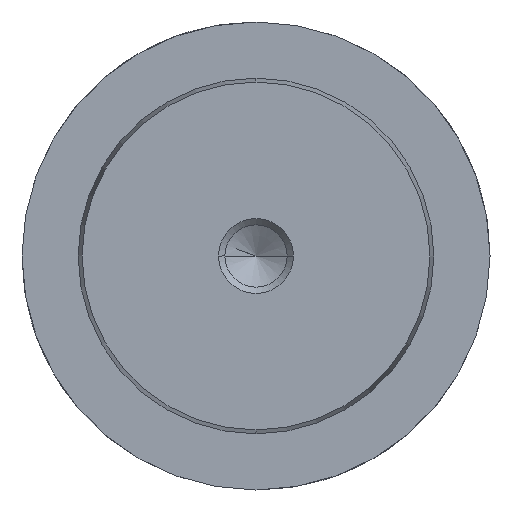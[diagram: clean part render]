
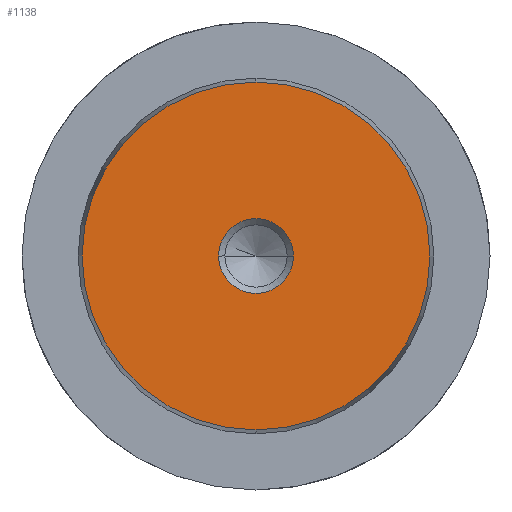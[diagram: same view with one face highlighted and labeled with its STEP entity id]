
A CAD part, left-side view. The second image highlights one B-rep face of the part: STEP entity #1138.
In plain terms, the highlighted planar face has unit normal (-1, 0, 0).
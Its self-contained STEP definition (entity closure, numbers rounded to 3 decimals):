
#1052=CARTESIAN_POINT('Vertex',(0.,0.,-18.578)) ;
#1055=CARTESIAN_POINT('Axis2P3D Location',(0.,0.,0.)) ;
#1059=CARTESIAN_POINT('Vertex',(0.,18.578,0.)) ;
#1062=CARTESIAN_POINT('Axis2P3D Location',(0.,0.,0.)) ;
#1066=CARTESIAN_POINT('Vertex',(0.,0.,18.578)) ;
#1088=CARTESIAN_POINT('Axis2P3D Location',(0.,0.,0.)) ;
#1092=CARTESIAN_POINT('Vertex',(0.,-18.578,0.)) ;
#1095=CARTESIAN_POINT('Axis2P3D Location',(0.,0.,0.)) ;
#1109=CARTESIAN_POINT('Axis2P3D Location',(0.,0.,0.)) ;
#1120=CARTESIAN_POINT('Axis2P3D Location',(0.,0.,0.)) ;
#1124=CARTESIAN_POINT('Vertex',(0.,4.,0.)) ;
#1126=CARTESIAN_POINT('Vertex',(0.,-4.,0.)) ;
#1129=CARTESIAN_POINT('Axis2P3D Location',(0.,0.,0.)) ;
#1056=DIRECTION('Axis2P3D Direction',(1.,-0.,0.)) ;
#1063=DIRECTION('Axis2P3D Direction',(1.,-0.,0.)) ;
#1089=DIRECTION('Axis2P3D Direction',(1.,0.,-0.)) ;
#1096=DIRECTION('Axis2P3D Direction',(1.,0.,-0.)) ;
#1110=DIRECTION('Axis2P3D Direction',(1.,0.,-0.)) ;
#1111=DIRECTION('Axis2P3D XDirection',(-0.,0.,-1.)) ;
#1121=DIRECTION('Axis2P3D Direction',(1.,0.,-0.)) ;
#1130=DIRECTION('Axis2P3D Direction',(1.,0.,-0.)) ;
#1057=AXIS2_PLACEMENT_3D('Circle Axis2P3D',#1055,#1056,$) ;
#1064=AXIS2_PLACEMENT_3D('Circle Axis2P3D',#1062,#1063,$) ;
#1090=AXIS2_PLACEMENT_3D('Circle Axis2P3D',#1088,#1089,$) ;
#1097=AXIS2_PLACEMENT_3D('Circle Axis2P3D',#1095,#1096,$) ;
#1112=AXIS2_PLACEMENT_3D('Plane Axis2P3D',#1109,#1110,#1111) ;
#1122=AXIS2_PLACEMENT_3D('Circle Axis2P3D',#1120,#1121,$) ;
#1131=AXIS2_PLACEMENT_3D('Circle Axis2P3D',#1129,#1130,$) ;
#1115=ORIENTED_EDGE('',*,*,#1061,.F.) ;
#1116=ORIENTED_EDGE('',*,*,#1099,.F.) ;
#1117=ORIENTED_EDGE('',*,*,#1094,.F.) ;
#1118=ORIENTED_EDGE('',*,*,#1068,.F.) ;
#1135=ORIENTED_EDGE('',*,*,#1128,.T.) ;
#1136=ORIENTED_EDGE('',*,*,#1133,.T.) ;
#1137=FACE_BOUND('',#1134,.T.) ;
#1138=ADVANCED_FACE('719-38x315',(#1119,#1137),#1113,.F.) ;
#1058=CIRCLE('generated circle',#1057,18.578) ;
#1065=CIRCLE('generated circle',#1064,18.578) ;
#1091=CIRCLE('generated circle',#1090,18.578) ;
#1098=CIRCLE('generated circle',#1097,18.578) ;
#1123=CIRCLE('generated circle',#1122,4.) ;
#1132=CIRCLE('generated circle',#1131,4.) ;
#1061=EDGE_CURVE('',#1053,#1060,#1058,.T.) ;
#1068=EDGE_CURVE('',#1060,#1067,#1065,.T.) ;
#1094=EDGE_CURVE('',#1067,#1093,#1091,.T.) ;
#1099=EDGE_CURVE('',#1093,#1053,#1098,.T.) ;
#1128=EDGE_CURVE('',#1125,#1127,#1123,.T.) ;
#1133=EDGE_CURVE('',#1127,#1125,#1132,.T.) ;
#1114=EDGE_LOOP('',(#1115,#1116,#1117,#1118)) ;
#1134=EDGE_LOOP('',(#1135,#1136)) ;
#1119=FACE_OUTER_BOUND('',#1114,.T.) ;
#1113=PLANE('Plane',#1112) ;
#1053=VERTEX_POINT('',#1052) ;
#1060=VERTEX_POINT('',#1059) ;
#1067=VERTEX_POINT('',#1066) ;
#1093=VERTEX_POINT('',#1092) ;
#1125=VERTEX_POINT('',#1124) ;
#1127=VERTEX_POINT('',#1126) ;
